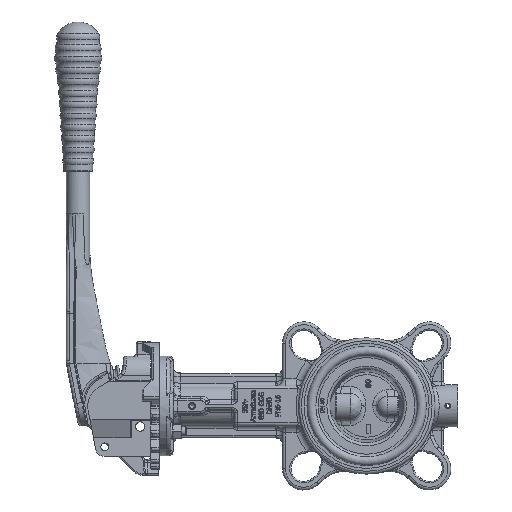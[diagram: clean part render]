
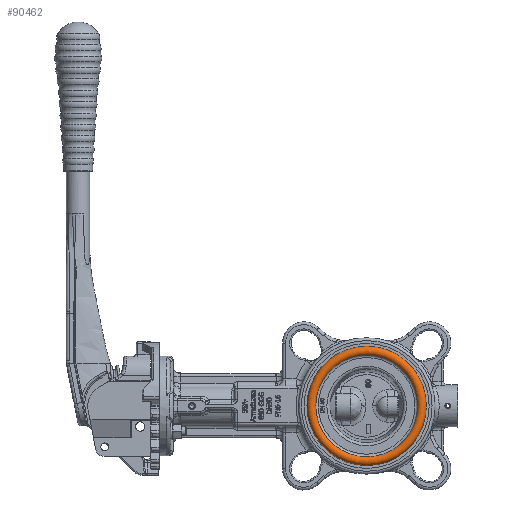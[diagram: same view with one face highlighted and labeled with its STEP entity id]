
A CAD part, left-side view. The second image highlights one B-rep face of the part: STEP entity #90462.
In plain terms, the highlighted toroidal (fillet/blend) face has major radius 38.75 mm and minor radius 3.25 mm.
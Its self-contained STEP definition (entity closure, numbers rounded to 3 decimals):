
#90428=CARTESIAN_POINT('',(-21.25,0.0,42.));
#90429=VERTEX_POINT('',#90428);
#90430=CARTESIAN_POINT('',(-21.25,0.0,0.0));
#90431=DIRECTION('',(-1.0,0.0,0.0));
#90432=DIRECTION('',(0.0,0.0,1.0));
#90433=AXIS2_PLACEMENT_3D('',#90430,#90431,#90432);
#90434=CIRCLE('',#90433,42.);
#90435=EDGE_CURVE('',#90429,#90429,#90434,.T.);
#90443=CARTESIAN_POINT('',(-21.25,0.0,0.0));
#90444=DIRECTION('',(-1.0,0.0,0.0));
#90445=DIRECTION('',(0.0,0.0,1.0));
#90446=AXIS2_PLACEMENT_3D('',#90443,#90444,#90445);
#90447=TOROIDAL_SURFACE('',#90446,38.75,3.25);
#90448=CARTESIAN_POINT('',(-22.643,0.0,35.814));
#90449=VERTEX_POINT('',#90448);
#90450=CARTESIAN_POINT('',(-22.643,0.0,0.0));
#90451=DIRECTION('',(-1.0,0.0,0.0));
#90452=DIRECTION('',(0.0,0.0,1.0));
#90453=AXIS2_PLACEMENT_3D('',#90450,#90451,#90452);
#90454=CIRCLE('',#90453,35.814);
#90455=EDGE_CURVE('',#90449,#90449,#90454,.T.);
#90456=ORIENTED_EDGE('',*,*,#90455,.F.);
#90457=EDGE_LOOP('',(#90456));
#90458=FACE_OUTER_BOUND('',#90457,.T.);
#90459=ORIENTED_EDGE('',*,*,#90435,.T.);
#90460=EDGE_LOOP('',(#90459));
#90461=FACE_BOUND('',#90460,.T.);
#90462=ADVANCED_FACE('',(#90458,#90461),#90447,.T.);
